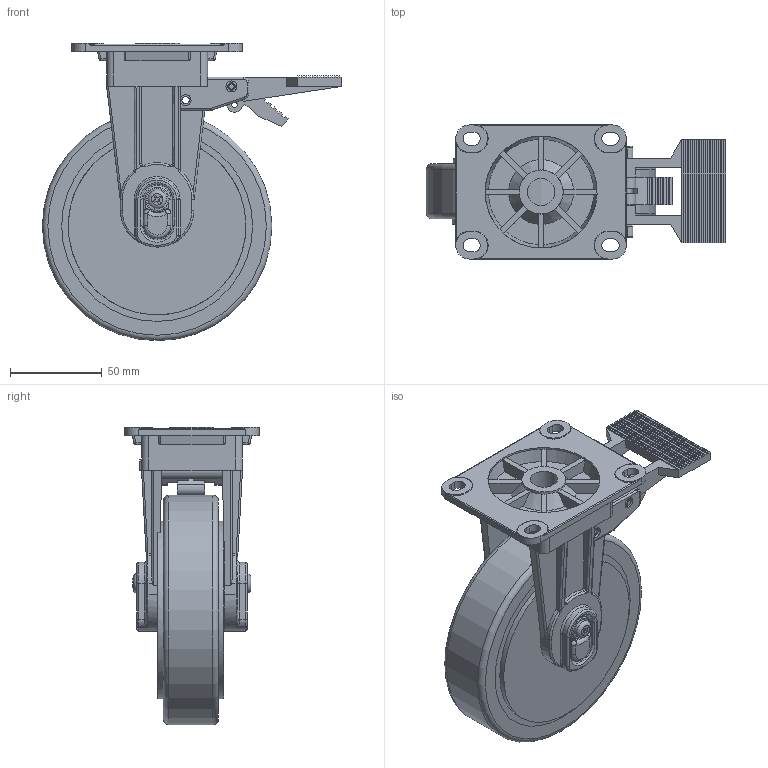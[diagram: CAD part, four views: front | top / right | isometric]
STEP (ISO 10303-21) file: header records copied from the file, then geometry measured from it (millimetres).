
FILE_DESCRIPTION((''),'2;1');
FILE_NAME('C:\Documents and Settings\Administrator\바탕 화면\2011년도\도면 및 견적서 발송\지덕 전체도면\3D도면\GDC\GDC-125-BRF\GDC-125BRF.stp','2012-02-03T09:21:11',('Administrator'),(''),'Autodesk Inventor 2009','Autodesk Inventor 2009','');
FILE_SCHEMA(('AUTOMOTIVE_DESIGN { 1 0 10303 214 1 1 1 1 }'));
Length unit declared in the file: millimetre
Products named in the file (1): GDC-125BRF
Bounding box: 163 x 73.01 x 162 mm (x, y, z)
Volume: 403754.4 mm3; surface area: 146242.9 mm2
Topology: 1 solids, 5 shells, 838 faces, 2123 edges, 1332 vertices
Faces by surface type: plane 387, cylinder 224, bspline 107, torus 62, cone 54, sphere 4
Full cylindrical faces by diameter (mm): 3 x6, 4 x4, 4.5 x2, 4.917 x1, 6 x5, 7.9 x4, 8.4 x4, 10.2 x1, 11.5 x1, 13 x1, 15 x1, 18 x1, 24 x1, 61 x1, 87.822 x2, 96.74 x2, 124.998 x1
Entity records: 33369 total; most frequent: CARTESIAN_POINT 13790, DIRECTION 4057, ORIENTED_EDGE 4028, EDGE_CURVE 2014, AXIS2_PLACEMENT_3D 1508, VERTEX_POINT 1306, VECTOR 1041, LINE 1041
